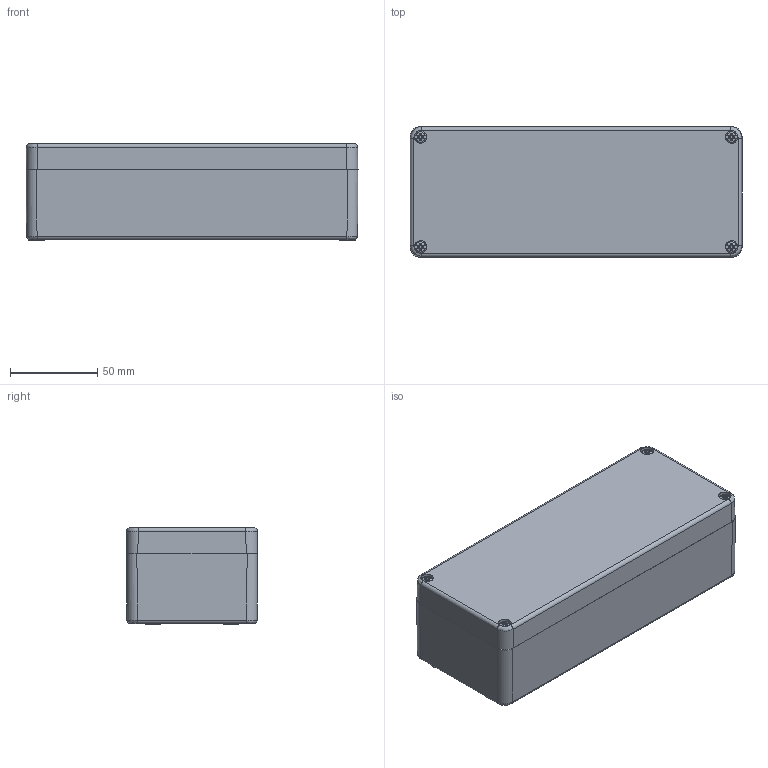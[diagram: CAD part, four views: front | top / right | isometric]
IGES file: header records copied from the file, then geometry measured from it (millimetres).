
Global section: file name: 1590ZGRP131.iam; native system: Autodesk Inventor 2016; preprocessor: unknown; author: kbond; date: 20160202.082027; units: millimetre
Bounding box: 190.3 x 75.2 x 55.5 mm (x, y, z)
Volume: 252639.8 mm3; surface area: 145381.5 mm2
Topology: 8 solids, 8 shells, 422 faces, 1120 edges, 742 vertices
Faces by surface type: plane 220, revolution 118, cylinder 40, cone 28, bspline 8, sphere 8
Full cylindrical faces by diameter (mm): 3.48 x4, 3.75 x8, 3.85 x4, 6.9 x4, 9 x4
